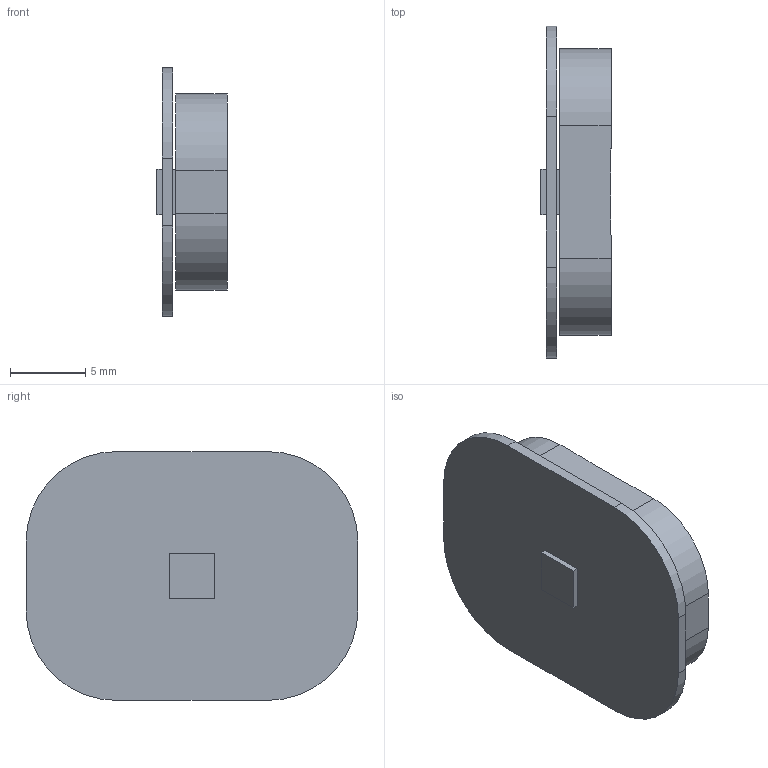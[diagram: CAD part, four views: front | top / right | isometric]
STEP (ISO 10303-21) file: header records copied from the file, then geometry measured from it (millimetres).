
FILE_DESCRIPTION(('Open CASCADE Model'),'2;1');
FILE_NAME('Open CASCADE Shape Model','2026-09-04T20:18:28',('Author'),( 'Open CASCADE'),'Open CASCADE STEP processor 7.7','Open CASCADE 7.7' ,'Unknown');
FILE_SCHEMA(('AUTOMOTIVE_DESIGN { 1 0 10303 214 1 1 1 1 }'));
Length unit declared in the file: millimetre
Products named in the file (1): Open CASCADE STEP translator 7.7 15
Bounding box: 4.65 x 22 x 16.5 mm (x, y, z)
Volume: 850.1 mm3; surface area: 1376.1 mm2
Topology: 1 solids, 1 shells, 41 faces, 108 edges, 72 vertices
Faces by surface type: plane 27, cylinder 12, sphere 2
Entity records: 2826 total; most frequent: CARTESIAN_POINT 676, DIRECTION 396, LINE 228, VECTOR 228, ORIENTED_EDGE 216, PCURVE 216, DEFINITIONAL_REPRESENTATION 216, EDGE_CURVE 108
